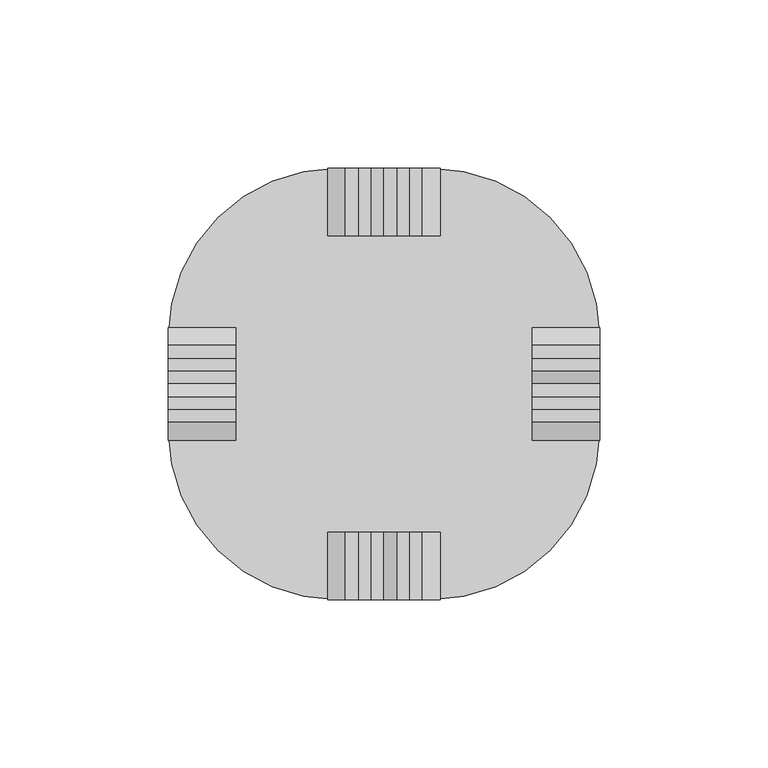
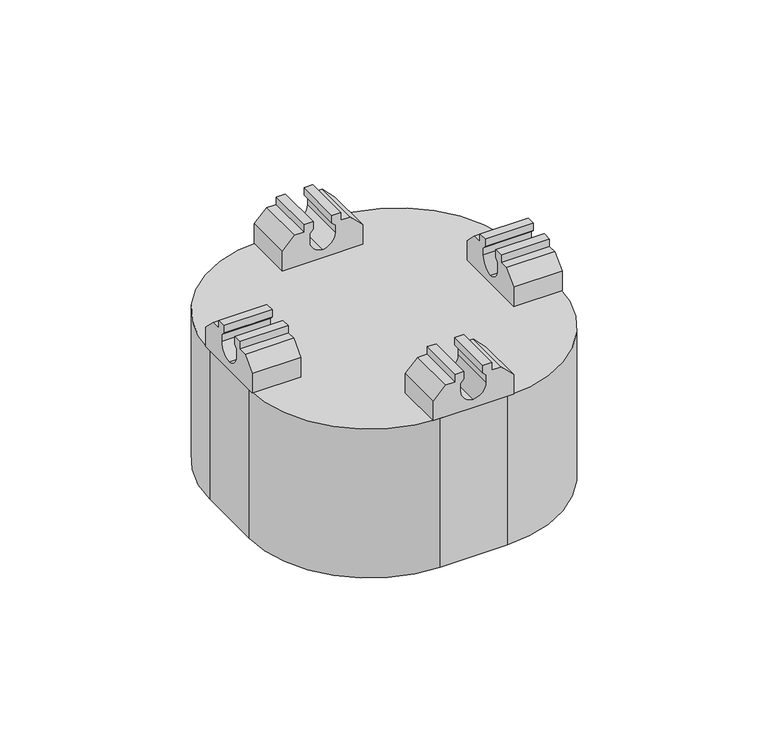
"""IFC4 building model written with IfcOpenShell, lengths in millimetres: proxy geometry, КНС_ДержательУниверсальный_DKC : ND1000_Полипропилен."""

from ifc_helpers import new_model, si_unit, point, frame, frame_2d, origin, origin_with_axes, place, context, project, spatial, polyline, circle_curve, trimmed, segment, composite_curve, outline, extrude, source, transform, mapped, element, save


def security_devices_465cfc0b(model_context):
    return source(origin(), model_context, "Body", "SweptSolid", [
        extrude(outline(composite_curve([segment(polyline([(16.6885606, 73.4672501), (16.6885606, 65.0), (0.0, 65.0), (-16.6885606, 65.0), (-16.6885606, 73.4672501), (-11.4369127, 78.7188981), (-7.5405287, 78.7188981), (-7.5405287, 82.0), (-3.8982567, 82.0), (-3.8982567, 78.7188981), (-5.3805767, 77.2365781), (-5.3805767, 74.060401)]), True, "CONTINUOUS"), segment(trimmed(circle_curve(frame_2d((0.2148946, 74.060401)), 5.5954713), [point((-5.3805767, 74.060401))], [point((0.0, 68.4690578))], True, "CARTESIAN"), True, "CONTINUOUS"), segment(trimmed(circle_curve(frame_2d((-0.2148946, 74.060401)), 5.5954713), [point((0.0, 68.4690578))], [point((5.3805767, 74.060401))], True, "CARTESIAN"), True, "CONTINUOUS"), segment(polyline([(5.3805767, 74.060401), (5.3805767, 77.2365781), (3.8982567, 78.7188981), (3.8982567, 82.0), (7.5405287, 82.0), (7.5405287, 78.7188981), (11.4369127, 78.7188981), (16.6885606, 73.4672501)]), True, "CONTINUOUS")], self_intersect=False)), frame((-64.0, 0.0, 0.0), z_axis=(1.0, 0.0, 0.0), x_axis=(0.0, 1.0, 0.0)), (0.0, 0.0, 1.0), 20.0),
        extrude(outline(composite_curve([segment(polyline([(16.6885606, 73.4672501), (16.6885606, 65.0), (0.0, 65.0), (-16.6885606, 65.0), (-16.6885606, 73.4672501), (-11.4369127, 78.7188981), (-7.5405287, 78.7188981), (-7.5405287, 82.0), (-3.8982567, 82.0), (-3.8982567, 78.7188981), (-5.3805767, 77.2365781), (-5.3805767, 74.060401)]), True, "CONTINUOUS"), segment(trimmed(circle_curve(frame_2d((0.2148946, 74.060401)), 5.5954713), [point((-5.3805767, 74.060401))], [point((0.0, 68.4690578))], True, "CARTESIAN"), True, "CONTINUOUS"), segment(trimmed(circle_curve(frame_2d((-0.2148946, 74.060401)), 5.5954713), [point((0.0, 68.4690578))], [point((5.3805767, 74.060401))], True, "CARTESIAN"), True, "CONTINUOUS"), segment(polyline([(5.3805767, 74.060401), (5.3805767, 77.2365781), (3.8982567, 78.7188981), (3.8982567, 82.0), (7.5405287, 82.0), (7.5405287, 78.7188981), (11.4369127, 78.7188981), (16.6885606, 73.4672501)]), True, "CONTINUOUS")], self_intersect=False)), frame((44.0, 0.0, 0.0), z_axis=(1.0, 0.0, 0.0), x_axis=(0.0, 1.0, 0.0)), (0.0, 0.0, 1.0), 20.0),
        extrude(outline(composite_curve([segment(polyline([(73.4672501, -16.6885606), (65.0, -16.6885606), (65.0, 0.0), (65.0, 16.6885606), (73.4672501, 16.6885606), (78.7188981, 11.4369127), (78.7188981, 7.5405287), (82.0, 7.5405287), (82.0, 3.8982567), (78.7188981, 3.8982567), (77.2365781, 5.3805767), (74.060401, 5.3805767)]), True, "CONTINUOUS"), segment(trimmed(circle_curve(frame_2d((74.060401, -0.2148946)), 5.5954713), [point((74.060401, 5.3805767))], [point((68.4690578, 0.0))], True, "CARTESIAN"), True, "CONTINUOUS"), segment(trimmed(circle_curve(frame_2d((74.060401, 0.2148946)), 5.5954713), [point((68.4690578, 0.0))], [point((74.060401, -5.3805767))], True, "CARTESIAN"), True, "CONTINUOUS"), segment(polyline([(74.060401, -5.3805767), (77.2365781, -5.3805767), (78.7188981, -3.8982567), (82.0, -3.8982567), (82.0, -7.5405287), (78.7188981, -7.5405287), (78.7188981, -11.4369127), (73.4672501, -16.6885606)]), True, "CONTINUOUS")], self_intersect=False)), frame((0.0, 44.0, 0.0), z_axis=(0.0, 1.0, 0.0), x_axis=(0.0, 0.0, 1.0)), (0.0, 0.0, 1.0), 20.0),
        extrude(outline(composite_curve([segment(polyline([(73.4672501, -16.6885606), (65.0, -16.6885606), (65.0, 0.0), (65.0, 16.6885606), (73.4672501, 16.6885606), (78.7188981, 11.4369127), (78.7188981, 7.5405287), (82.0, 7.5405287), (82.0, 3.8982567), (78.7188981, 3.8982567), (77.2365781, 5.3805767), (74.060401, 5.3805767)]), True, "CONTINUOUS"), segment(trimmed(circle_curve(frame_2d((74.060401, -0.2148946)), 5.5954713), [point((74.060401, 5.3805767))], [point((68.4690578, 0.0))], True, "CARTESIAN"), True, "CONTINUOUS"), segment(trimmed(circle_curve(frame_2d((74.060401, 0.2148946)), 5.5954713), [point((68.4690578, 0.0))], [point((74.060401, -5.3805767))], True, "CARTESIAN"), True, "CONTINUOUS"), segment(polyline([(74.060401, -5.3805767), (77.2365781, -5.3805767), (78.7188981, -3.8982567), (82.0, -3.8982567), (82.0, -7.5405287), (78.7188981, -7.5405287), (78.7188981, -11.4369127), (73.4672501, -16.6885606)]), True, "CONTINUOUS")], self_intersect=False)), frame((0.0, -64.0, 0.0), z_axis=(0.0, 1.0, 0.0), x_axis=(0.0, 0.0, 1.0)), (0.0, 0.0, 1.0), 20.0),
        extrude(outline(composite_curve([segment(trimmed(circle_curve(frame_2d((14.0, 14.0)), 50.0), [point((14.0, 64.0))], [point((64.0, 14.0))], False, "CARTESIAN"), True, "CONTINUOUS"), segment(polyline([(64.0, 14.0), (64.0, -14.0)]), True, "CONTINUOUS"), segment(trimmed(circle_curve(frame_2d((14.0, -14.0)), 50.0), [point((64.0, -14.0))], [point((14.0, -64.0))], False, "CARTESIAN"), True, "CONTINUOUS"), segment(polyline([(14.0, -64.0), (-14.0, -64.0)]), True, "CONTINUOUS"), segment(trimmed(circle_curve(frame_2d((-14.0, -14.0)), 50.0), [point((-14.0, -64.0))], [point((-64.0, -14.0))], False, "CARTESIAN"), True, "CONTINUOUS"), segment(polyline([(-64.0, -14.0), (-64.0, 14.0)]), True, "CONTINUOUS"), segment(trimmed(circle_curve(frame_2d((-14.0, 14.0)), 50.0), [point((-64.0, 14.0))], [point((-14.0, 64.0))], False, "CARTESIAN"), True, "CONTINUOUS"), segment(polyline([(-14.0, 64.0), (14.0, 64.0)]), True, "CONTINUOUS")], self_intersect=False)), origin_with_axes(), (0.0, 0.0, 1.0), 65.0),
    ])


if __name__ == "__main__":
    model = new_model("IFC4")
    model_context = context("Model", 3, world=origin())
    ifc_project = project(units=[si_unit("LENGTHUNIT", "METRE", prefix="MILLI")], contexts=[model_context])
    site = spatial("IfcSite", under=ifc_project)
    building = spatial("IfcBuilding", under=site)
    placement = place(None, origin())
    security_devices_shape = security_devices_465cfc0b(model_context)
    element("IfcBuildingElementProxy", 1, Name="КНС_ДержательУниверсальный_DKC : ND1000_Полипропилен", ObjectType="КНС_ДержательУниверсальный_DKC : ND1000_Полипропилен", at=placement, inside=building, context=model_context, shape_type="MappedRepresentation", body=[
        mapped(security_devices_shape, transform((0.0, 0.0, 0.0), x_axis=(1.0, 0.0, 0.0), y_axis=(0.0, 1.0, 0.0), z_axis=(0.0, 0.0, 1.0))),
    ])
    save(model, "model.ifc")
